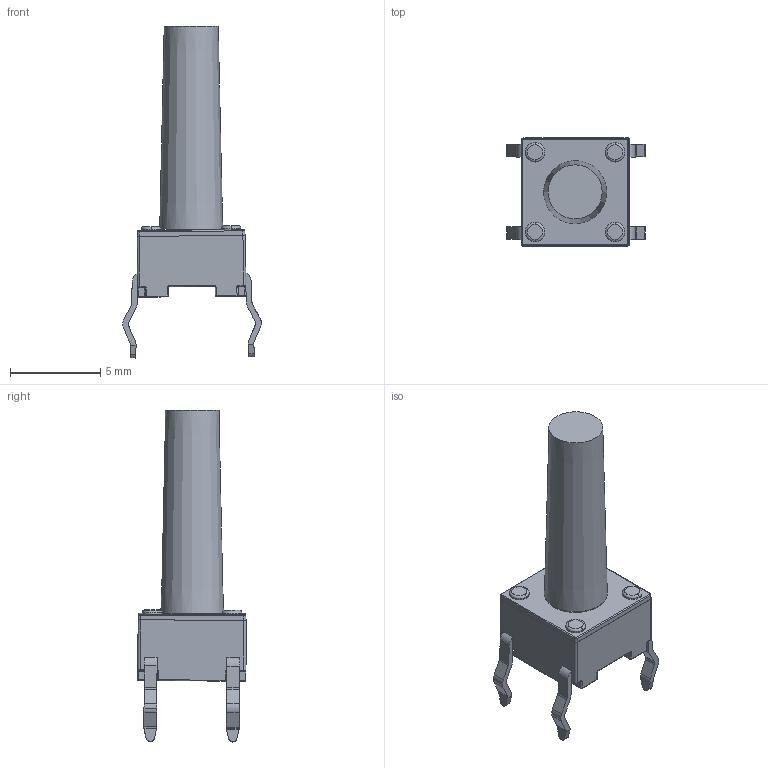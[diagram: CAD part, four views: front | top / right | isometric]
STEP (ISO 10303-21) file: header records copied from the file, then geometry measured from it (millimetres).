
FILE_DESCRIPTION(('FreeCAD Model'),'2;1');
FILE_NAME('C:/Users/Metaltex-99/Desktop/A06-15.0.stp', '2021-08-13T15:00:00',('Engenharia Metaltex'),('Metaltex'), 'Open CASCADE STEP processor 7.3','FreeCAD','Unknown');
FILE_SCHEMA(('AUTOMOTIVE_DESIGN { 1 0 10303 214 1 1 1 1 }'));
Length unit declared in the file: millimetre
Products named in the file (3): A06-15.0; Cilindro; Base
Assembly tree (2 placements, depth 2):
  A06-15.0
    Cilindro
    Base
Bounding box: 7.69 x 6.03 x 18.44 mm (x, y, z)
Volume: 219.8 mm3; surface area: 333.1 mm2
Topology: 2 solids, 2 shells, 294 faces, 716 edges, 408 vertices
Faces by surface type: cylinder 139, plane 90, torus 38, sphere 24, revolution 2, cone 1
Full cylindrical faces by diameter (mm): 3.46 x1
Entity records: 20696 total; most frequent: CARTESIAN_POINT 4354, DIRECTION 2863, LINE 1523, VECTOR 1523, ORIENTED_EDGE 1384, PCURVE 1384, DEFINITIONAL_REPRESENTATION 1384, EDGE_CURVE 692
